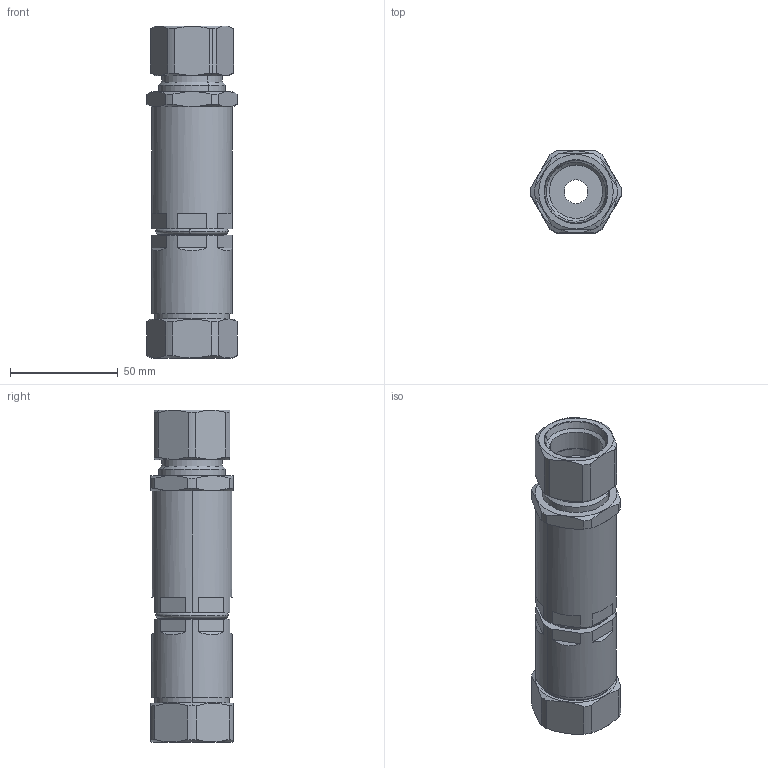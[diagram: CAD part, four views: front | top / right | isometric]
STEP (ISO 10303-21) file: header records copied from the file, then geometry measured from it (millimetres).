
FILE_DESCRIPTION (( 'STEP AP214' ), '1' );
FILE_NAME ('VSQ11161.STEP', '2025-06-03T23:30:01', ( '' ), ( '' ), 'SwSTEP 2.0', 'SolidWorks 2023', '' );
FILE_SCHEMA (( 'AUTOMOTIVE_DESIGN' ));
Length unit declared in the file: millimetre
Products named in the file (1): VSQ11161
Bounding box: 42 x 38.1 x 153.9 mm (x, y, z)
Surface area: 29218.3 mm2 (no closed solid volume)
Topology: 0 solids, 6 shells, 133 faces, 360 edges, 238 vertices
Faces by surface type: plane 53, cylinder 42, cone 28, torus 10
Entity records: 4601 total; most frequent: CARTESIAN_POINT 1212, DIRECTION 742, ORIENTED_EDGE 678, EDGE_CURVE 360, AXIS2_PLACEMENT_3D 300, VERTEX_POINT 238, CIRCLE 166, EDGE_LOOP 144
